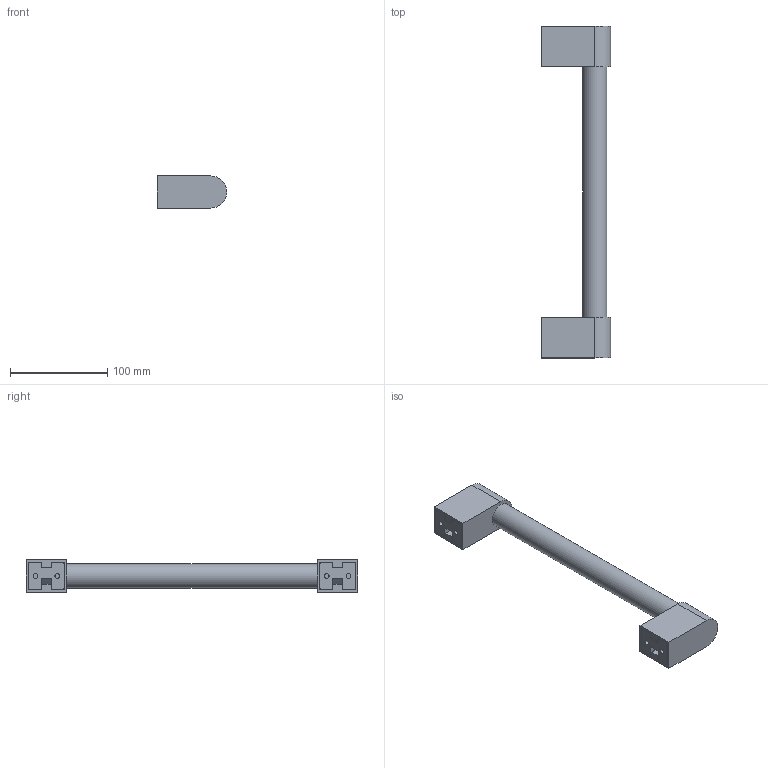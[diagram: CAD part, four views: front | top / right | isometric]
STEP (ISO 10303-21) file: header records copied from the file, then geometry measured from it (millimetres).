
FILE_DESCRIPTION(/* description */ (''),/* implementation_level */ '2;1');
FILE_NAME(/* name */ '4111 600',/* time_stamp */ '2019-08-20T09:41:30+08:00',/* author */ (''),/* organization */ (''),/* preprocessor_version */ 'ST-DEVELOPER v9',/* originating_system */ 'UGS - NX 4.0',/* authorisation */ '');
FILE_SCHEMA (('CONFIG_CONTROL_DESIGN'));
Length unit declared in the file: millimetre
Products named in the file (1): w337D95ig4y
Bounding box: 71.5 x 342 x 33 mm (x, y, z)
Volume: 136229.7 mm3; surface area: 112132.2 mm2
Topology: 5 solids, 5 shells, 129 faces, 336 edges, 225 vertices
Faces by surface type: plane 92, cylinder 37
Full cylindrical faces by diameter (mm): 5 x4, 6 x3, 23.4 x1, 25 x1, 25.2 x2
Entity records: 4084 total; most frequent: CARTESIAN_POINT 788, DIRECTION 652, ORIENTED_EDGE 644, EDGE_CURVE 322, LINE 248, VECTOR 248, VERTEX_POINT 222, AXIS2_PLACEMENT_3D 202
